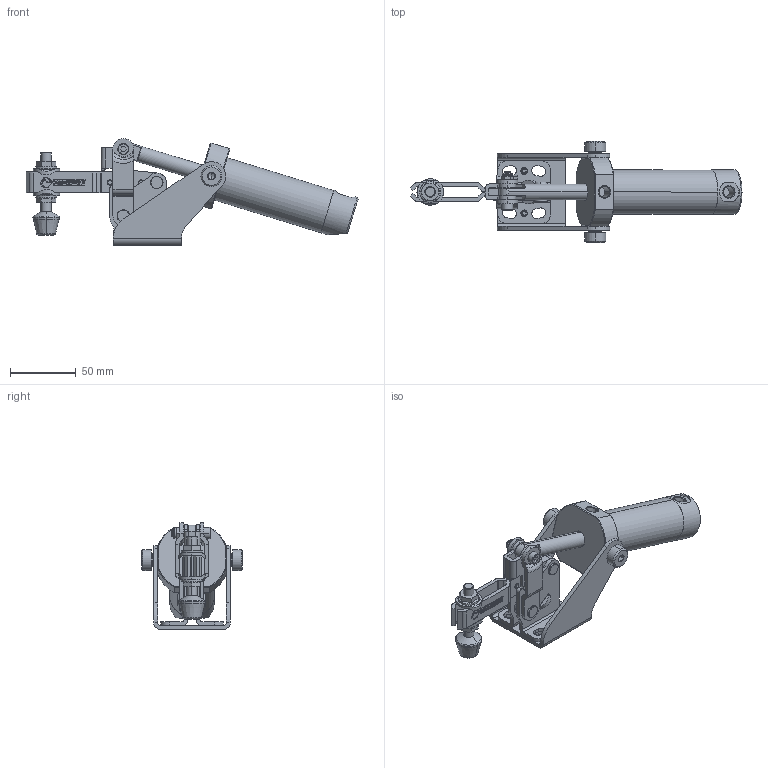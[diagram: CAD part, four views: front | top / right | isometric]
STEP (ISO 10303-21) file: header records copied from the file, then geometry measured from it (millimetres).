
FILE_DESCRIPTION(('STEP AP242'),'1');
FILE_NAME('611-3.stp','2023-11-30T13:49:01',('TraceParts'),('TraceParts S.A.'),'Spatial InterOp 3D',' ',' ');
FILE_SCHEMA(('AP242_MANAGED_MODEL_BASED_3D_ENGINEERING_MIM_LF {1 0 10303 442 1 1 4}'));
Length unit declared in the file: millimetre
Products named in the file (1): 611-3_1
Bounding box: 253.11 x 77 x 81.5 mm (x, y, z)
Volume: 161142.3 mm3; surface area: 88024.6 mm2
Topology: 10 solids, 14 shells, 1518 faces, 3765 edges, 2312 vertices
Faces by surface type: cylinder 711, plane 405, torus 230, cone 94, bspline 50, sphere 28
Entity records: 108903 total; most frequent: CARTESIAN_POINT 62329, DIRECTION 8106, ORIENTED_EDGE 7470, EDGE_CURVE 3735, AXIS2_PLACEMENT_3D 3268, VERTEX_POINT 2311, CIRCLE 1766, EDGE_LOOP 1636
